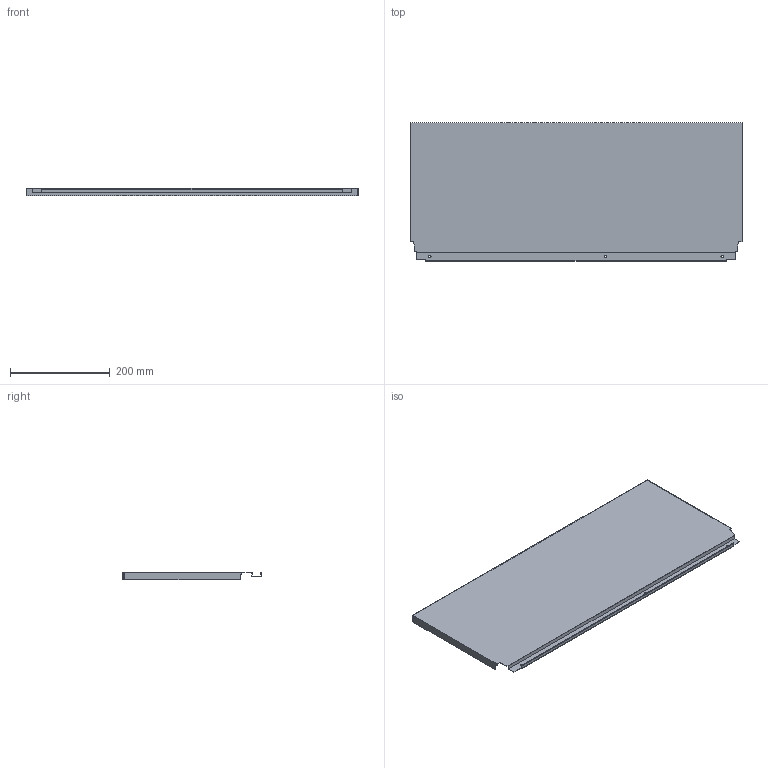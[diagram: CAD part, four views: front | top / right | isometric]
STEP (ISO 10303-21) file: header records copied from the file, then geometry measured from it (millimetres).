
FILE_DESCRIPTION (( 'STEP AP214' ), '1' );
FILE_NAME ('_DWD_XP Stahlrückwand_H278_KAB750_S16.step', '2010-07-08T13:03:48', ( 'grass' ), ( '' ), 'SwSTEP 2.0', 'SolidWorks 2010', '' );
FILE_SCHEMA (( 'AUTOMOTIVE_DESIGN' ));
Length unit declared in the file: millimetre
Products named in the file (1): _DWD_XP Stahlrückwand_H278_KAB750_S16
Bounding box: 667 x 278.57 x 16 mm (x, y, z)
Volume: 186023.2 mm3; surface area: 424521.8 mm2
Topology: 1 solids, 1 shells, 46 faces, 132 edges, 88 vertices
Faces by surface type: plane 40, cylinder 6
Entity records: 1534 total; most frequent: CARTESIAN_POINT 267, ORIENTED_EDGE 264, DIRECTION 238, EDGE_CURVE 132, VECTOR 120, LINE 120, VERTEX_POINT 88, AXIS2_PLACEMENT_3D 59
